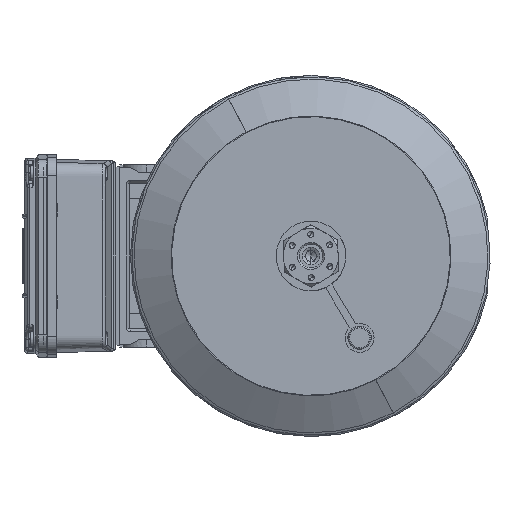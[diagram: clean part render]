
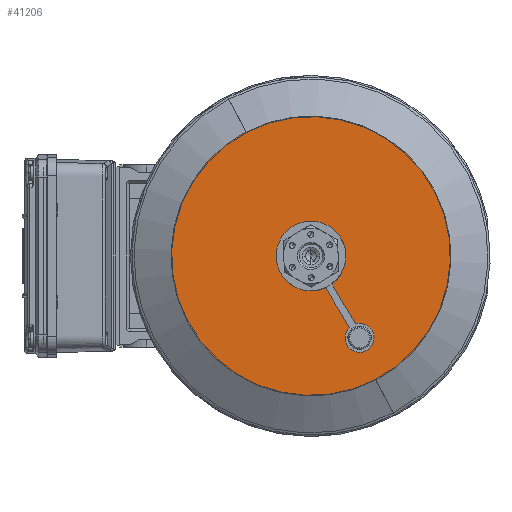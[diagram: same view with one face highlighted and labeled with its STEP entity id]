
A CAD part, left-side view. The second image highlights one B-rep face of the part: STEP entity #41206.
In plain terms, the highlighted planar face has unit normal (-1, 0, 0) as drawn and (0, -1, 0) by its records, which use the part's own axes.
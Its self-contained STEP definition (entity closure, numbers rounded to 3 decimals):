
#803 = FACE_OUTER_BOUND ( 'NONE', #19091, .T. ) ;
#2254 = DIRECTION ( 'NONE',  ( 0., 1., 0. ) ) ;
#3127 = DIRECTION ( 'NONE',  ( 0., 0., 1. ) ) ;
#9549 = AXIS2_PLACEMENT_3D ( 'NONE', #32181, #92339, #40822 ) ;
#12694 = AXIS2_PLACEMENT_3D ( 'NONE', #46675, #106838, #55311 ) ;
#18326 = CIRCLE ( 'NONE', #77788, 77.5 ) ;
#19091 = EDGE_LOOP ( 'NONE', ( #103336, #108613 ) ) ;
#20554 = CIRCLE ( 'NONE', #12694, 77.5 ) ;
#20951 = CIRCLE ( 'NONE', #9549, 13.5 ) ;
#24791 = ORIENTED_EDGE ( 'NONE', *, *, #55382, .T. ) ;
#27380 = EDGE_CURVE ( 'NONE', #30038, #98849, #20554, .T. ) ;
#30038 = VERTEX_POINT ( 'NONE', #88463 ) ;
#32181 = CARTESIAN_POINT ( 'NONE',  ( 0., 0., 0. ) ) ;
#40822 = DIRECTION ( 'NONE',  ( 0., 0., 1. ) ) ;
#41206 = ADVANCED_FACE ( 'NONE', ( #44047, #803 ), #102598, .T. ) ;
#42080 = CARTESIAN_POINT ( 'NONE',  ( -13.5, 0., 0. ) ) ;
#44047 = FACE_BOUND ( 'NONE', #89182, .T. ) ;
#46675 = CARTESIAN_POINT ( 'NONE',  ( 0., 0., 0. ) ) ;
#53930 = CARTESIAN_POINT ( 'NONE',  ( 0., 0., 0. ) ) ;
#54843 = DIRECTION ( 'NONE',  ( 0., 1., 0. ) ) ;
#55311 = DIRECTION ( 'NONE',  ( 0., 0., 1. ) ) ;
#55382 = EDGE_CURVE ( 'NONE', #85457, #68418, #20951, .T. ) ;
#59790 = DIRECTION ( 'NONE',  ( 0., 0., -1. ) ) ;
#60527 = EDGE_CURVE ( 'NONE', #68418, #85457, #87748, .T. ) ;
#61112 = ORIENTED_EDGE ( 'NONE', *, *, #60527, .T. ) ;
#62615 = CARTESIAN_POINT ( 'NONE',  ( 0., 0., 13.5 ) ) ;
#62630 = DIRECTION ( 'NONE',  ( 0., 0., 1. ) ) ;
#64034 = CARTESIAN_POINT ( 'NONE',  ( 0., 0., -77.5 ) ) ;
#68418 = VERTEX_POINT ( 'NONE', #69733 ) ;
#69733 = CARTESIAN_POINT ( 'NONE',  ( 0., 0., -13.5 ) ) ;
#70704 = AXIS2_PLACEMENT_3D ( 'NONE', #53930, #2254, #62630 ) ;
#70873 = AXIS2_PLACEMENT_3D ( 'NONE', #42080, #111272, #59790 ) ;
#77788 = AXIS2_PLACEMENT_3D ( 'NONE', #106360, #54843, #3127 ) ;
#78203 = EDGE_CURVE ( 'NONE', #98849, #30038, #18326, .T. ) ;
#85457 = VERTEX_POINT ( 'NONE', #62615 ) ;
#87748 = CIRCLE ( 'NONE', #70704, 13.5 ) ;
#88463 = CARTESIAN_POINT ( 'NONE',  ( 0., 0., 77.5 ) ) ;
#89182 = EDGE_LOOP ( 'NONE', ( #24791, #61112 ) ) ;
#92339 = DIRECTION ( 'NONE',  ( 0., 1., 0. ) ) ;
#98849 = VERTEX_POINT ( 'NONE', #64034 ) ;
#102598 = PLANE ( 'NONE',  #70873 ) ;
#103336 = ORIENTED_EDGE ( 'NONE', *, *, #27380, .F. ) ;
#106360 = CARTESIAN_POINT ( 'NONE',  ( 0., 0., 0. ) ) ;
#106838 = DIRECTION ( 'NONE',  ( 0., 1., 0. ) ) ;
#108613 = ORIENTED_EDGE ( 'NONE', *, *, #78203, .F. ) ;
#111272 = DIRECTION ( 'NONE',  ( 0., -1., 0. ) ) ;
